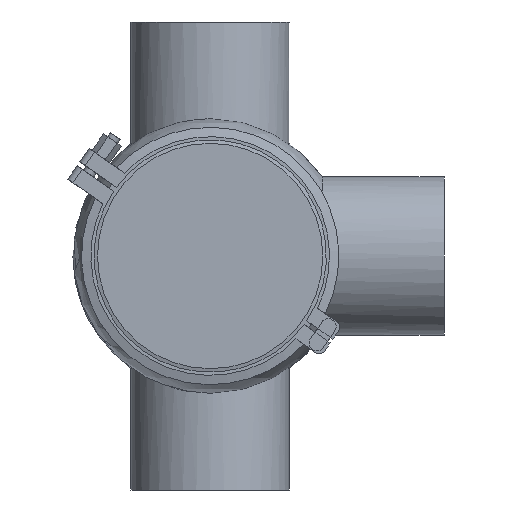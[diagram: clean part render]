
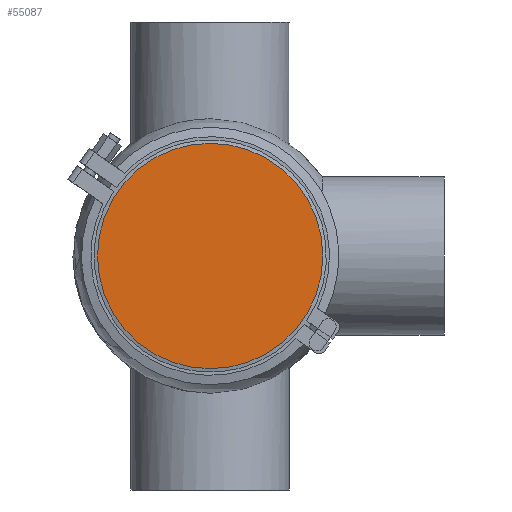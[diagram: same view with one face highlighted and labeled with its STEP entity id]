
A CAD part, front view. The second image highlights one B-rep face of the part: STEP entity #55087.
In plain terms, the highlighted planar face has unit normal (0, -1, 0).
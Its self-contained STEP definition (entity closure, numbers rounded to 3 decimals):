
#4329 = AXIS2_PLACEMENT_3D ( 'NONE', #53267, #29704, #48615 ) ;
#10828 = CARTESIAN_POINT ( 'NONE',  ( 0., 0., 0. ) ) ;
#11060 = VERTEX_POINT ( 'NONE', #44531 ) ;
#24383 = CIRCLE ( 'NONE', #46166, 72.25 ) ;
#29704 = DIRECTION ( 'NONE',  ( 0., -1., 0. ) ) ;
#34360 = FACE_OUTER_BOUND ( 'NONE', #42639, .T. ) ;
#41593 = ORIENTED_EDGE ( 'NONE', *, *, #58255, .F. ) ;
#42639 = EDGE_LOOP ( 'NONE', ( #41593 ) ) ;
#44531 = CARTESIAN_POINT ( 'NONE',  ( 0., 0., 72.25 ) ) ;
#46166 = AXIS2_PLACEMENT_3D ( 'NONE', #10828, #58318, #53644 ) ;
#48615 = DIRECTION ( 'NONE',  ( 0., 0., -1. ) ) ;
#48903 = PLANE ( 'NONE',  #4329 ) ;
#53267 = CARTESIAN_POINT ( 'NONE',  ( -72.25, 0., 0. ) ) ;
#53644 = DIRECTION ( 'NONE',  ( 0., 0., 1. ) ) ;
#55087 = ADVANCED_FACE ( 'NONE', ( #34360 ), #48903, .T. ) ;
#58255 = EDGE_CURVE ( 'NONE', #11060, #11060, #24383, .T. ) ;
#58318 = DIRECTION ( 'NONE',  ( 0., 1., 0. ) ) ;
